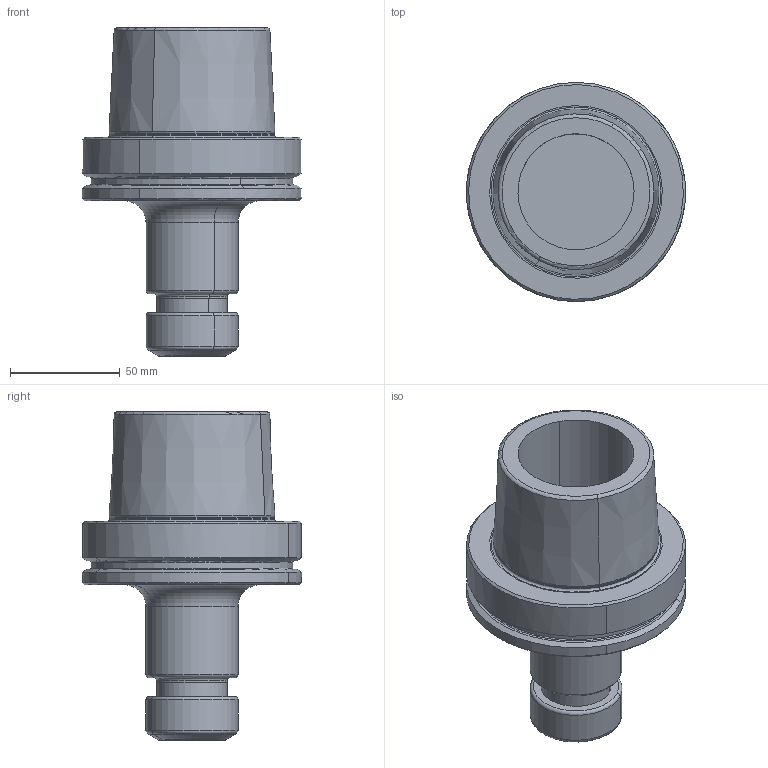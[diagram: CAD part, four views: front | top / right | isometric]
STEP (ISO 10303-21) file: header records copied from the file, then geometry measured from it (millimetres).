
FILE_DESCRIPTION(('CATIA V5 STEP','CAx-IF Rec.Pracs.--- Model Styling and Organization---1.2---2011-12-15'),'2;1');
FILE_NAME('\\nas01\drv1\utils\eitdev\rte\eit\transmagicconvert\db\out\635923287109356397\4561154-L-B.stp','2016-02-29T05:45:22+00:00',('none'),('none'),'CATIA Version 5 Release 21 SP 5 (IN-10)','CATIA V5 STEP AP214','none');
FILE_SCHEMA(('AUTOMOTIVE_DESIGN { 1 0 10303 214 1 1 1 1 }'));
Length unit declared in the file: millimetre
Products named in the file (1): HSK A 100 ER25X100
Bounding box: 99.98 x 100 x 150 mm (x, y, z)
Volume: 374833.5 mm3; surface area: 59300.3 mm2
Topology: 1 solids, 1 shells, 78 faces, 204 edges, 135 vertices
Faces by surface type: cylinder 24, torus 22, cone 22, plane 10
Entity records: 2303 total; most frequent: CARTESIAN_POINT 528, ORIENTED_EDGE 404, DIRECTION 276, EDGE_CURVE 202, AXIS2_PLACEMENT_3D 185, CIRCLE 138, VERTEX_POINT 135, EDGE_LOOP 87
